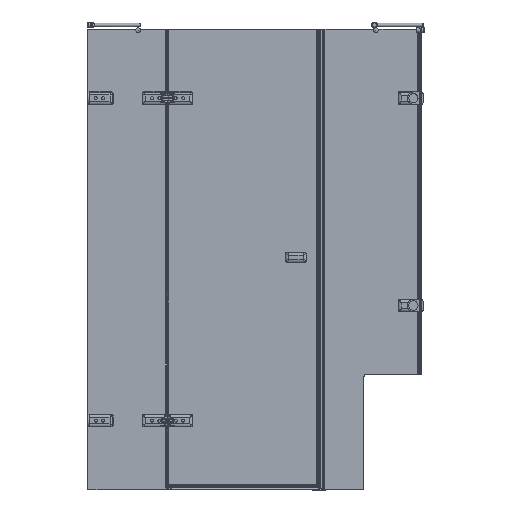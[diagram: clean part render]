
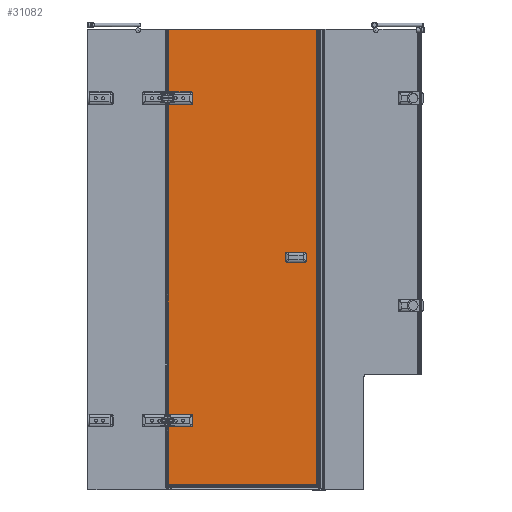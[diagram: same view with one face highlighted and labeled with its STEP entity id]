
A CAD part, left-side view. The second image highlights one B-rep face of the part: STEP entity #31082.
In plain terms, the highlighted planar face has unit normal (-1, 0, 0).
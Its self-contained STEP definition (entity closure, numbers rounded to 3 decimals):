
#1315=LINE($,#60963,#3947);
#1767=LINE($,#63101,#4399);
#2270=LINE($,#69983,#4902);
#2564=LINE($,#71463,#5196);
#2705=LINE($,#71784,#5337);
#2706=LINE($,#71788,#5338);
#2707=LINE($,#71791,#5339);
#2708=LINE($,#71793,#5340);
#2709=LINE($,#71797,#5341);
#2710=LINE($,#71800,#5342);
#2711=LINE($,#71802,#5343);
#2712=LINE($,#71803,#5344);
#3947=VECTOR($,#36920,1362.);
#4399=VECTOR($,#38246,281.);
#4902=VECTOR($,#39739,644.036);
#5196=VECTOR($,#40533,256.4);
#5337=VECTOR($,#40856,30.636);
#5338=VECTOR($,#40859,18.);
#5339=VECTOR($,#40862,30.636);
#5340=VECTOR($,#40863,30.636);
#5341=VECTOR($,#40866,18.);
#5342=VECTOR($,#40869,30.636);
#5343=VECTOR($,#40870,644.036);
#5344=VECTOR($,#40871,1975.4);
#6885=FACE_BOUND($,#10157,.T.);
#6886=FACE_BOUND($,#10158,.T.);
#6887=FACE_BOUND($,#10159,.T.);
#10157=EDGE_LOOP($,(#25471));
#10158=EDGE_LOOP($,(#25472));
#10159=EDGE_LOOP($,(#25473,#25474,#25475,#25476,#25477,#25478,#25479,#25480,
#25481,#25482,#25483,#25484,#25485,#25486,#25487,#25488));
#10882=CIRCLE($,#32205,6.5);
#11047=CIRCLE($,#32640,6.5);
#11398=CIRCLE($,#33671,10.);
#11399=CIRCLE($,#33672,10.);
#11400=CIRCLE($,#33673,10.);
#11401=CIRCLE($,#33674,10.);
#12385=VERTEX_POINT($,#60028);
#12565=VERTEX_POINT($,#60960);
#12566=VERTEX_POINT($,#60962);
#12821=VERTEX_POINT($,#62161);
#13002=VERTEX_POINT($,#63098);
#13003=VERTEX_POINT($,#63100);
#13599=VERTEX_POINT($,#69982);
#13904=VERTEX_POINT($,#71451);
#13905=VERTEX_POINT($,#71462);
#13970=VERTEX_POINT($,#71783);
#13971=VERTEX_POINT($,#71785);
#13972=VERTEX_POINT($,#71787);
#13973=VERTEX_POINT($,#71789);
#13974=VERTEX_POINT($,#71792);
#13975=VERTEX_POINT($,#71794);
#13976=VERTEX_POINT($,#71796);
#13977=VERTEX_POINT($,#71798);
#13978=VERTEX_POINT($,#71801);
#15500=EDGE_CURVE($,#12385,#12385,#10882,.T.);
#15787=EDGE_CURVE($,#12566,#12565,#1315,.T.);
#16189=EDGE_CURVE($,#12821,#12821,#11047,.T.);
#16479=EDGE_CURVE($,#13003,#13002,#1767,.T.);
#17336=EDGE_CURVE($,#13003,#13599,#2270,.T.);
#17782=EDGE_CURVE($,#13905,#13904,#2564,.T.);
#17932=EDGE_CURVE($,#13002,#13970,#2705,.T.);
#17933=EDGE_CURVE($,#13971,#13970,#11398,.T.);
#17934=EDGE_CURVE($,#13971,#13972,#2706,.T.);
#17935=EDGE_CURVE($,#13973,#13972,#11399,.T.);
#17936=EDGE_CURVE($,#13973,#12566,#2707,.T.);
#17937=EDGE_CURVE($,#12565,#13974,#2708,.T.);
#17938=EDGE_CURVE($,#13975,#13974,#11400,.T.);
#17939=EDGE_CURVE($,#13975,#13976,#2709,.T.);
#17940=EDGE_CURVE($,#13977,#13976,#11401,.T.);
#17941=EDGE_CURVE($,#13977,#13905,#2710,.T.);
#17942=EDGE_CURVE($,#13978,#13904,#2711,.T.);
#17943=EDGE_CURVE($,#13599,#13978,#2712,.T.);
#25471=ORIENTED_EDGE($,*,*,#15500,.T.);
#25472=ORIENTED_EDGE($,*,*,#16189,.T.);
#25473=ORIENTED_EDGE($,*,*,#16479,.T.);
#25474=ORIENTED_EDGE($,*,*,#17932,.T.);
#25475=ORIENTED_EDGE($,*,*,#17933,.F.);
#25476=ORIENTED_EDGE($,*,*,#17934,.T.);
#25477=ORIENTED_EDGE($,*,*,#17935,.F.);
#25478=ORIENTED_EDGE($,*,*,#17936,.T.);
#25479=ORIENTED_EDGE($,*,*,#15787,.T.);
#25480=ORIENTED_EDGE($,*,*,#17937,.T.);
#25481=ORIENTED_EDGE($,*,*,#17938,.F.);
#25482=ORIENTED_EDGE($,*,*,#17939,.T.);
#25483=ORIENTED_EDGE($,*,*,#17940,.F.);
#25484=ORIENTED_EDGE($,*,*,#17941,.T.);
#25485=ORIENTED_EDGE($,*,*,#17782,.T.);
#25486=ORIENTED_EDGE($,*,*,#17942,.F.);
#25487=ORIENTED_EDGE($,*,*,#17943,.F.);
#25488=ORIENTED_EDGE($,*,*,#17336,.F.);
#27868=PLANE($,#33670);
#31082=ADVANCED_FACE($,(#6885,#6886,#6887),#27868,.T.);
#32205=AXIS2_PLACEMENT_3D($,#60029,#36354,#36355);
#32640=AXIS2_PLACEMENT_3D($,#62162,#37674,#37675);
#33670=AXIS2_PLACEMENT_3D($,#71782,#40854,#40855);
#33671=AXIS2_PLACEMENT_3D($,#71786,#40857,#40858);
#33672=AXIS2_PLACEMENT_3D($,#71790,#40860,#40861);
#33673=AXIS2_PLACEMENT_3D($,#71795,#40864,#40865);
#33674=AXIS2_PLACEMENT_3D($,#71799,#40867,#40868);
#36354=DIRECTION('center_axis',(1.,0.,0.));
#36355=DIRECTION('ref_axis',(0.,1.,0.));
#36920=DIRECTION($,(0.,0.,-1.));
#37674=DIRECTION('center_axis',(1.,0.,0.));
#37675=DIRECTION('ref_axis',(0.,1.,0.));
#38246=DIRECTION($,(0.,0.,-1.));
#39739=DIRECTION($,(0.,-1.,0.));
#40533=DIRECTION($,(0.,0.,-1.));
#40854=DIRECTION('center_axis',(-1.,0.,0.));
#40855=DIRECTION('ref_axis',(0.,-1.,0.));
#40856=DIRECTION($,(0.,-1.,0.));
#40857=DIRECTION('center_axis',(-1.,0.,0.));
#40858=DIRECTION('ref_axis',(0.,-0.707,0.707));
#40859=DIRECTION($,(0.,0.,-1.));
#40860=DIRECTION('center_axis',(-1.,0.,0.));
#40861=DIRECTION('ref_axis',(0.,-0.707,-0.707));
#40862=DIRECTION($,(0.,1.,0.));
#40863=DIRECTION($,(0.,-1.,0.));
#40864=DIRECTION('center_axis',(-1.,0.,0.));
#40865=DIRECTION('ref_axis',(0.,-0.707,0.707));
#40866=DIRECTION($,(0.,0.,-1.));
#40867=DIRECTION('center_axis',(-1.,0.,0.));
#40868=DIRECTION('ref_axis',(0.,-0.707,-0.707));
#40869=DIRECTION($,(0.,1.,0.));
#40870=DIRECTION($,(0.,1.,0.));
#40871=DIRECTION($,(0.,0.,-1.));
#60028=CARTESIAN_POINT('',(1225.951,824.457,-214.056));
#60029=CARTESIAN_POINT('Origin',(1225.951,830.957,-214.056));
#60960=CARTESIAN_POINT('',(1225.951,894.593,-195.056));
#60962=CARTESIAN_POINT('',(1225.951,894.593,1166.944));
#60963=CARTESIAN_POINT($,(1225.951,894.593,1175.944));
#62161=CARTESIAN_POINT('',(1225.951,824.457,1185.944));
#62162=CARTESIAN_POINT('Origin',(1225.951,830.957,1185.944));
#63098=CARTESIAN_POINT('',(1225.951,894.593,1204.944));
#63100=CARTESIAN_POINT('',(1225.951,894.593,1485.944));
#63101=CARTESIAN_POINT($,(1225.951,894.593,1195.944));
#69982=CARTESIAN_POINT('',(1225.951,250.557,1485.944));
#69983=CARTESIAN_POINT($,(1225.951,895.957,1485.944));
#71451=CARTESIAN_POINT('',(1225.951,894.593,-489.456));
#71462=CARTESIAN_POINT('',(1225.951,894.593,-233.056));
#71463=CARTESIAN_POINT($,(1225.951,894.593,-514.056));
#71782=CARTESIAN_POINT('Origin',(1225.951,895.957,-494.056));
#71783=CARTESIAN_POINT('',(1225.951,863.957,1204.944));
#71784=CARTESIAN_POINT($,(1225.951,895.957,1204.944));
#71785=CARTESIAN_POINT('',(1225.951,853.957,1194.944));
#71786=CARTESIAN_POINT('Origin',(1225.951,863.957,1194.944));
#71787=CARTESIAN_POINT('',(1225.951,853.957,1176.944));
#71788=CARTESIAN_POINT($,(1225.951,853.957,355.444));
#71789=CARTESIAN_POINT('',(1225.951,863.957,1166.944));
#71790=CARTESIAN_POINT('Origin',(1225.951,863.957,1176.944));
#71791=CARTESIAN_POINT($,(1225.951,874.957,1166.944));
#71792=CARTESIAN_POINT('',(1225.951,863.957,-195.056));
#71793=CARTESIAN_POINT($,(1225.951,895.957,-195.056));
#71794=CARTESIAN_POINT('',(1225.951,853.957,-205.056));
#71795=CARTESIAN_POINT('Origin',(1225.951,863.957,-205.056));
#71796=CARTESIAN_POINT('',(1225.951,853.957,-223.056));
#71797=CARTESIAN_POINT($,(1225.951,853.957,-344.556));
#71798=CARTESIAN_POINT('',(1225.951,863.957,-233.056));
#71799=CARTESIAN_POINT('Origin',(1225.951,863.957,-223.056));
#71800=CARTESIAN_POINT($,(1225.951,874.957,-233.056));
#71801=CARTESIAN_POINT('',(1225.951,250.557,-489.456));
#71802=CARTESIAN_POINT($,(1225.951,235.957,-489.456));
#71803=CARTESIAN_POINT($,(1225.951,250.557,1485.944));
